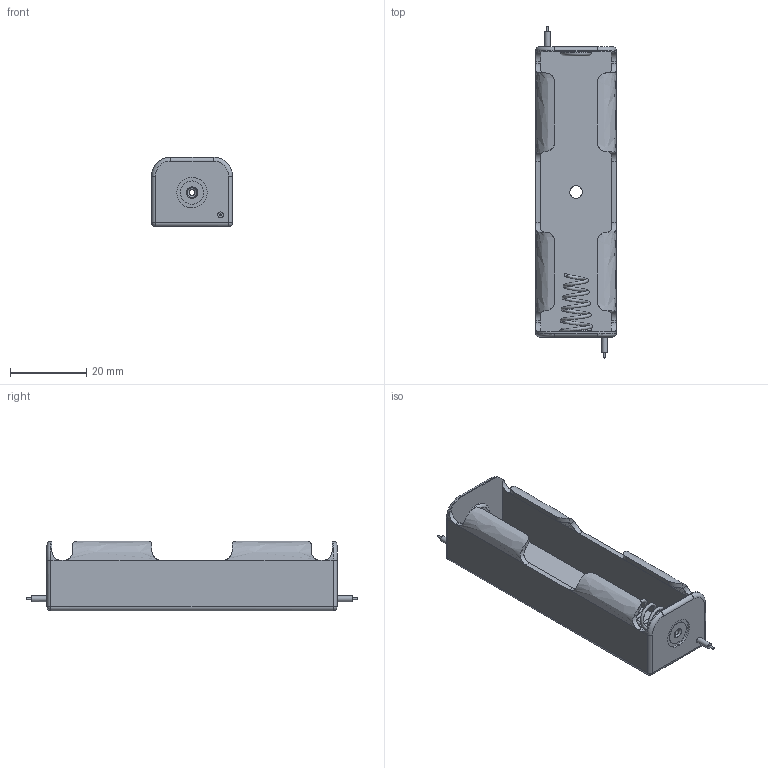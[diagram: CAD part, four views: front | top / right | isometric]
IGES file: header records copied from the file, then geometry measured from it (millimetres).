
Global section: file name: 18650 battery holder; native system: unknown; preprocessor: unknown; author: unknown; organization: unknown; date: 20210522.160825; units: millimetre
Bounding box: 21.2 x 87 x 18.2 mm (x, y, z)
Volume: 6052.5 mm3; surface area: 10099.3 mm2
Topology: 3 solids, 3 shells, 120 faces, 291 edges, 188 vertices
Faces by surface type: bspline 120
